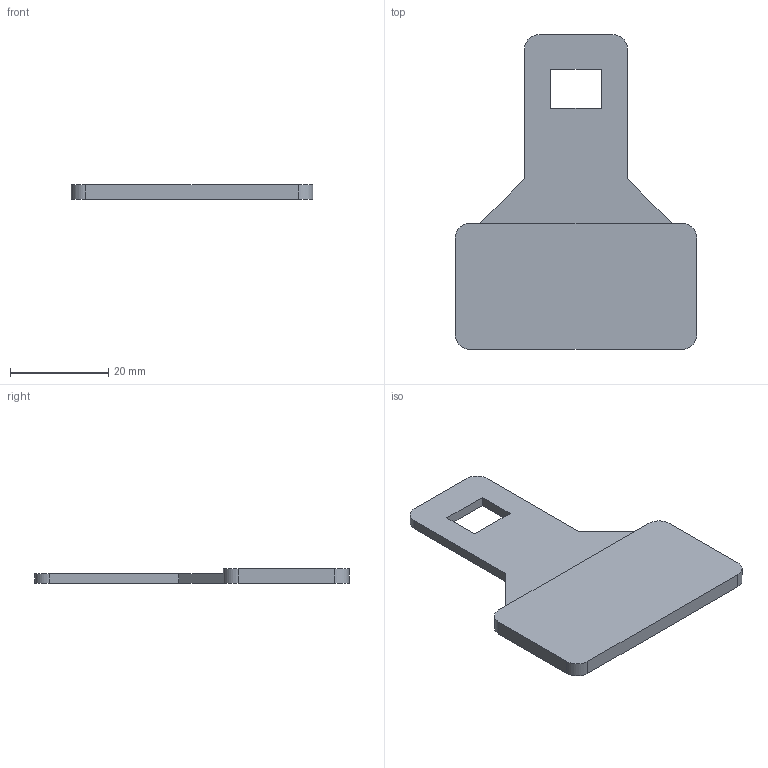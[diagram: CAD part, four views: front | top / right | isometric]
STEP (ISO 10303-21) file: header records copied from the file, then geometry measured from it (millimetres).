
FILE_DESCRIPTION(/* description */ (''),/* implementation_level */ '2;1');
FILE_NAME(/* name */ 'C:/Users/Alister/Documents/Designspark/Seatbelt/Parts/Tongue Blank.step',/* time_stamp */ '2021-11-05T16:24:14+11:00',/* author */ (''),/* organization */ (''),/* preprocessor_version */ 'ST-DEVELOPER v18.1',/* originating_system */ 'Autodesk Translation Framework v10.10.0.1391',/* authorisation */ '');
FILE_SCHEMA (('AUTOMOTIVE_DESIGN { 1 0 10303 214 3 1 1 }'));
Length unit declared in the file: millimetre
Products named in the file (2): Seat Belt; Tongue (1)
Assembly tree (1 placements, depth 2):
  Seat Belt
    Tongue (1)
Bounding box: 49.14 x 64 x 3 mm (x, y, z)
Volume: 5358.3 mm3; surface area: 4740.6 mm2
Topology: 1 solids, 1 shells, 22 faces, 60 edges, 40 vertices
Faces by surface type: plane 16, cylinder 6
Entity records: 795 total; most frequent: CARTESIAN_POINT 125, DIRECTION 122, ORIENTED_EDGE 120, EDGE_CURVE 60, LINE 48, VECTOR 48, VERTEX_POINT 40, AXIS2_PLACEMENT_3D 37
